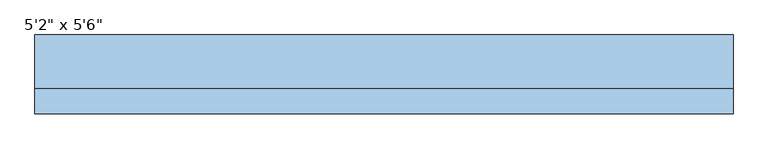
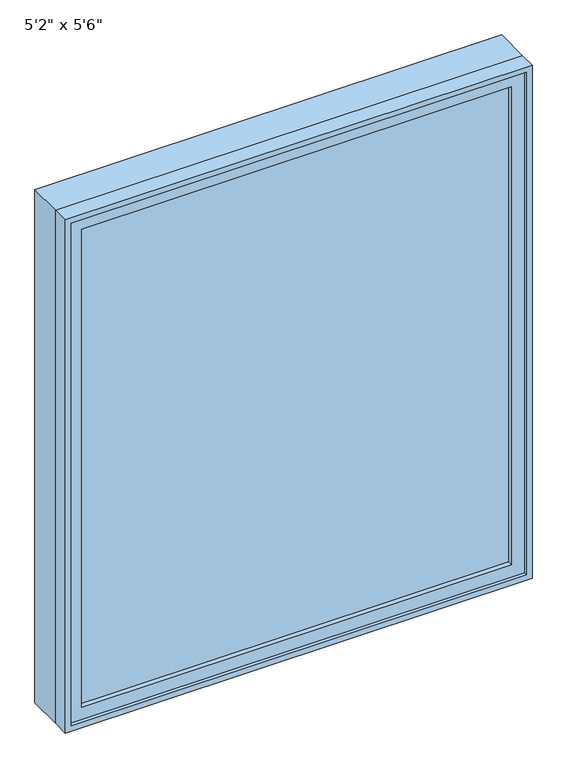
"""IFC4 building model written with IfcOpenShell, lengths in millimetres: window geometry."""

import ifcopenshell
import ifcopenshell.guid

model = None  # the IFC model being written
_history = None  # IfcOwnerHistory: only IFC2X3 demands one
_inside = {}  # id of a spatial element -> (the spatial element, [elements in it])
_under = {}  # id of a project, library or spatial element -> (it, [spatial elements below it])
_declared = {}  # id of a project -> (the project, [libraries it declares])
_typed = {}  # id of a type object -> (the type object, [elements of that type])
_made_of = {}  # id of a material, layer set ... -> (it, [elements and type objects made of it])


def new_model(schema):
    """Start an empty IFC model of exactly this schema.

    Asked for "IFC4X3", IfcOpenShell would pick the latest addendum, in which some entities
    have other attributes; the version numbers below select the first issue.
    IFC2X3 requires an IfcOwnerHistory on every rooted entity: one is made here for all.
    """
    global model, _history
    if schema == "IFC4X3":
        model = ifcopenshell.file(schema_version=(4, 3, 0, 0))
    else:
        model = ifcopenshell.file(schema=schema)
    _inside.clear()
    _under.clear()
    _declared.clear()
    _typed.clear()
    _made_of.clear()
    _history = None
    if model.schema == "IFC2X3":
        org = make("IfcOrganization", Name="unknown")
        user = make(
            "IfcPersonAndOrganization",
            ThePerson=make("IfcPerson", FamilyName="unknown"),
            TheOrganization=org,
        )
        app = make(
            "IfcApplication",
            ApplicationDeveloper=org,
            Version="unknown",
            ApplicationFullName="unknown",
            ApplicationIdentifier="unknown",
        )
        _history = make(
            "IfcOwnerHistory",
            OwningUser=user,
            OwningApplication=app,
            ChangeAction="ADDED",
            CreationDate=0,
        )
    return model


def make(cls, **values):
    """One entity of the class cls with the attributes given. An attribute that is None is left unset."""
    return model.create_entity(
        cls, **{name: value for name, value in values.items() if value is not None}
    )


def rooted(cls, **values):
    """An entity with a GlobalId (a new one), such as an element, a storey or a relation."""
    return make(cls, GlobalId=ifcopenshell.guid.new(), OwnerHistory=_history, **values)


def si_unit(unit_type, name, prefix=None):
    """IfcSIUnit, for example si_unit("LENGTHUNIT", "METRE", prefix="MILLI")."""
    return make("IfcSIUnit", UnitType=unit_type, Prefix=prefix, Name=name)


def assignment(units):
    """IfcUnitAssignment: the units of a project."""
    return None if units is None else make("IfcUnitAssignment", Units=units)


def point(xyz):
    """IfcCartesianPoint."""
    return None if xyz is None else make("IfcCartesianPoint", Coordinates=xyz)


def direction(xyz):
    """IfcDirection."""
    return None if xyz is None else make("IfcDirection", DirectionRatios=xyz)


def frame(location, z_axis=None, x_axis=None):
    """IfcAxis2Placement3D, a coordinate frame: its origin and axes. An axis left out is left unset."""
    return make(
        "IfcAxis2Placement3D",
        Location=point(location),
        Axis=direction(z_axis),
        RefDirection=direction(x_axis),
    )


def origin():
    """The frame at (0, 0, 0) with its axes left unset."""
    return frame((0.0, 0.0, 0.0))


def place(relative_to, where):
    """IfcLocalPlacement: puts the frame where relative to a parent placement (None: the world)."""
    return make(
        "IfcLocalPlacement", PlacementRelTo=relative_to, RelativePlacement=where
    )


def context(
    kind, dimensions, precision=None, world=None, true_north=None, identifier=None
):
    """IfcGeometricRepresentationContext, for example the 3D "Model" context."""
    return make(
        "IfcGeometricRepresentationContext",
        ContextIdentifier=identifier,
        ContextType=kind,
        CoordinateSpaceDimension=dimensions,
        Precision=precision,
        WorldCoordinateSystem=world,
        TrueNorth=true_north,
    )


def project(units=None, contexts=None):
    """IfcProject with its units and contexts."""
    return rooted(
        "IfcProject",
        Name="project",
        RepresentationContexts=contexts,
        UnitsInContext=assignment(units),
    )


def spatial(cls, under=None, at=None, **own):
    """A site, building, storey or space (cls), placed at a placement, below another one or the project."""
    s = rooted(cls, ObjectPlacement=at, **own)
    if under is not None:
        _under.setdefault(under.id(), (under, []))[1].append(s)
    return s


def polyline(points):
    """IfcPolyline through the points."""
    return make("IfcPolyline", Points=[point(p) for p in points])


def outline(outer, holes=None, kind="AREA"):
    """IfcArbitraryClosedProfileDef: a profile drawn as a closed curve; with holes, ...WithVoids."""
    if holes is None:
        return make("IfcArbitraryClosedProfileDef", ProfileType=kind, OuterCurve=outer)
    return make(
        "IfcArbitraryProfileDefWithVoids",
        ProfileType=kind,
        OuterCurve=outer,
        InnerCurves=holes,
    )


def extrude(swept, where, along, depth):
    """IfcExtrudedAreaSolid: the profile swept, set in the frame where, extruded along a direction by depth."""
    return make(
        "IfcExtrudedAreaSolid",
        SweptArea=swept,
        Position=where,
        ExtrudedDirection=direction(along),
        Depth=depth,
    )


def shape(context_of_items, identifier, shape_type, items):
    """IfcShapeRepresentation: the items that make up one representation, for example the "Body"."""
    return make(
        "IfcShapeRepresentation",
        ContextOfItems=context_of_items,
        RepresentationIdentifier=identifier,
        RepresentationType=shape_type,
        Items=items,
    )


def source(mapping_origin, context_of_items, identifier, shape_type, items):
    """IfcRepresentationMap: a shape defined once, which mapped items show again and again."""
    return make(
        "IfcRepresentationMap",
        MappingOrigin=mapping_origin,
        MappedRepresentation=shape(context_of_items, identifier, shape_type, items),
    )


def transform(
    local_origin,
    x_axis=None,
    y_axis=None,
    z_axis=None,
    scale=None,
    scale2=None,
    scale3=None,
    uniform=True,
):
    """IfcCartesianTransformationOperator3D, or its non-uniform kind. x_axis, y_axis, z_axis: its Axis1, 2, 3."""
    if uniform:
        return make(
            "IfcCartesianTransformationOperator3D",
            Axis1=direction(x_axis),
            Axis2=direction(y_axis),
            LocalOrigin=point(local_origin),
            Scale=scale,
            Axis3=direction(z_axis),
        )
    return make(
        "IfcCartesianTransformationOperator3DnonUniform",
        Axis1=direction(x_axis),
        Axis2=direction(y_axis),
        LocalOrigin=point(local_origin),
        Scale=scale,
        Axis3=direction(z_axis),
        Scale2=scale2,
        Scale3=scale3,
    )


def mapped(mapping_source, mapping_target):
    """IfcMappedItem: shows the shape of a source again, moved by a transform."""
    return make(
        "IfcMappedItem", MappingSource=mapping_source, MappingTarget=mapping_target
    )


def made_of(thing, what):
    """Note that an element or type object is made of a material, layer set ...; save() writes the relation."""
    if what is not None:
        _made_of.setdefault(what.id(), (what, []))[1].append(thing)
    return thing


def element(
    cls,
    number,
    at=None,
    inside=None,
    cuts=None,
    type_object=None,
    material=None,
    context=None,
    identifier="Body",
    shape_type=None,
    held_by="IfcProductDefinitionShape",
    body=None,
    shapes=None,
    **own,
):
    """One element of the class cls, such as IfcWall. Its Tag is "e" and its number.

    at: its placement. inside: the storey or other place that contains it. cuts: it is an
    opening in that element (IfcRelVoidsElement). A single representation is given by context,
    identifier, shape_type and body (its items); several are given by shapes. held_by: the class
    of the entity that holds the representations. save() writes the other relations.
    """
    e = rooted(cls, Tag="e%d" % number, ObjectPlacement=at, **own)
    if body is not None:
        shapes = [shape(context, identifier, shape_type, body)]
    if shapes is not None:
        e.Representation = make(held_by, Representations=shapes)
    if inside is not None:
        _inside.setdefault(inside.id(), (inside, []))[1].append(e)
    if cuts is not None:
        rooted(
            "IfcRelVoidsElement", RelatingBuildingElement=cuts, RelatedOpeningElement=e
        )
    if type_object is not None:
        _typed.setdefault(type_object.id(), (type_object, []))[1].append(e)
    return made_of(e, material)


def aggregate(whole, parts):
    """IfcRelAggregates: a whole, such as a stair, and the parts it consists of."""
    return rooted("IfcRelAggregates", RelatingObject=whole, RelatedObjects=parts)


def save(model, path):
    """Write the relations noted so far, then the file.

    IfcRelAggregates (storeys below a building ...), IfcRelContainedInSpatialStructure (elements
    in a storey), IfcRelDefinesByType, IfcRelAssociatesMaterial and IfcRelDeclares: one each for
    every whole, place, type object, material and project.
    """
    for whole, parts in _under.values():
        aggregate(whole, parts)
    for where, things in _inside.values():
        rooted(
            "IfcRelContainedInSpatialStructure",
            RelatedElements=things,
            RelatingStructure=where,
        )
    for kind, things in _typed.values():
        rooted("IfcRelDefinesByType", RelatedObjects=things, RelatingType=kind)
    for what, things in _made_of.values():
        rooted("IfcRelAssociatesMaterial", RelatedObjects=things, RelatingMaterial=what)
    for by, libraries in _declared.values():
        rooted("IfcRelDeclares", RelatingContext=by, RelatedDefinitions=libraries)
    model.write(path)


def window_2f6c72c3(model_context):
    return source(origin(), model_context, "Body", "SweptSolid", [
        extrude(outline(polyline([(2724.2, -768.4), (933.4, -768.4), (933.4, 768.4), (2724.2, 768.4), (2724.2, -768.4)]), holes=[polyline([(2680.2, -724.4), (2680.2, 724.4), (977.4, 724.4), (977.4, -724.4), (2680.2, -724.4)])]), frame((0.0, -89.2, 0.0), z_axis=(0.0, 1.0, 0.0), x_axis=(0.0, 0.0, 1.0)), (0.0, 0.0, 1.0), 44.0),
        extrude(outline(polyline([(2743.2, -787.4), (914.4, -787.4), (914.4, 787.4), (2743.2, 787.4), (2743.2, -787.4)]), holes=[polyline([(2724.2, -768.4), (2724.2, 768.4), (933.4, 768.4), (933.4, -768.4), (2724.2, -768.4)])]), frame((0.0, -101.9, 0.0), z_axis=(0.0, 1.0, 0.0), x_axis=(0.0, 0.0, 1.0)), (0.0, 0.0, 1.0), 56.7),
        extrude(outline(polyline([(2743.2, -787.4), (914.4, -787.4), (914.4, 787.4), (2743.2, 787.4), (2743.2, -787.4)]), holes=[polyline([(2711.2, -755.4), (2711.2, 755.4), (946.4, 755.4), (946.4, -755.4), (2711.2, -755.4)])]), frame((0.0, -45.2, 0.0), z_axis=(0.0, 1.0, 0.0), x_axis=(0.0, 0.0, 1.0)), (0.0, 0.0, 1.0), 121.1),
        extrude(outline(polyline([(-724.4, -73.2), (-724.4, -61.2), (724.4, -61.2), (724.4, -73.2), (-724.4, -73.2)])), frame((0.0, 0.0, 977.4), z_axis=(0.0, 0.0, 1.0), x_axis=(1.0, 0.0, 0.0)), (0.0, 0.0, 1.0), 1702.8),
    ])


if __name__ == "__main__":
    model = new_model("IFC4")
    model_context = context("Model", 3, world=origin())
    ifc_project = project(units=[si_unit("LENGTHUNIT", "METRE", prefix="MILLI")], contexts=[model_context])
    site = spatial("IfcSite", under=ifc_project)
    building = spatial("IfcBuilding", under=site)
    placement = place(None, origin())
    window_shape = window_2f6c72c3(model_context)
    element("IfcWindow", 1, ObjectType="Planitar-Fixed : 5'2\" x 5'6\"", at=placement, inside=building, context=model_context, shape_type="MappedRepresentation", body=[
        mapped(window_shape, transform((0.0, 0.0, 0.0), x_axis=(1.0, 0.0, 0.0), y_axis=(0.0, 1.0, 0.0), z_axis=(0.0, 0.0, 1.0))),
    ])
    save(model, "model.ifc")
